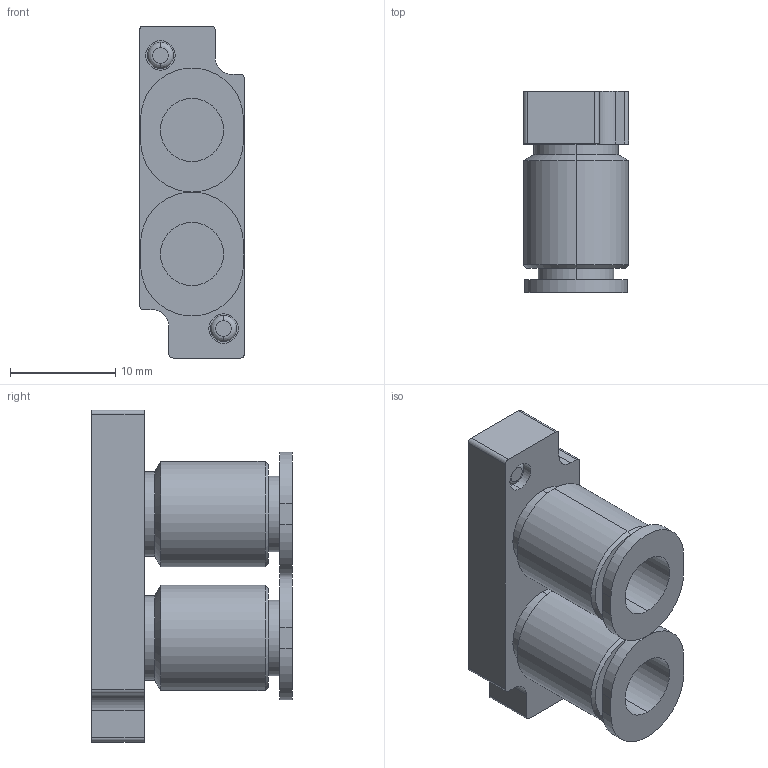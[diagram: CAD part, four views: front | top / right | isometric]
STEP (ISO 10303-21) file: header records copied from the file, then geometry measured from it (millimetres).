
FILE_DESCRIPTION( (''), '2;1');
FILE_NAME ('CVICAD02.17696.F10_Port_VJ6_6655.stp','2020-09-01T14:14:38',(''),(''),'spGate 12.6.6','','');
FILE_SCHEMA (('AUTOMOTIVE_DESIGN'));
Length unit declared in the file: millimetre
Bounding box: 10 x 19.1 x 31.6 mm (x, y, z)
Volume: 2887 mm3; surface area: 2599.2 mm2
Topology: 1 solids, 1 shells, 70 faces, 156 edges, 100 vertices
Faces by surface type: cylinder 32, plane 26, bspline 12
Entity records: 3379 total; most frequent: CARTESIAN_POINT 532, DIRECTION 316, ORIENTED_EDGE 312, COLOUR_RGB 227, PRESENTATION_STYLE_ASSIGNMENT 227, STYLED_ITEM 227, EDGE_CURVE 156, DRAUGHTING_PRE_DEFINED_CURVE_FONT 156
